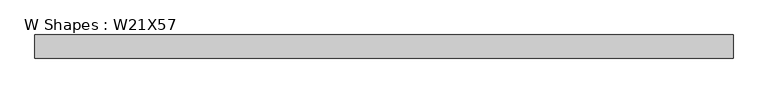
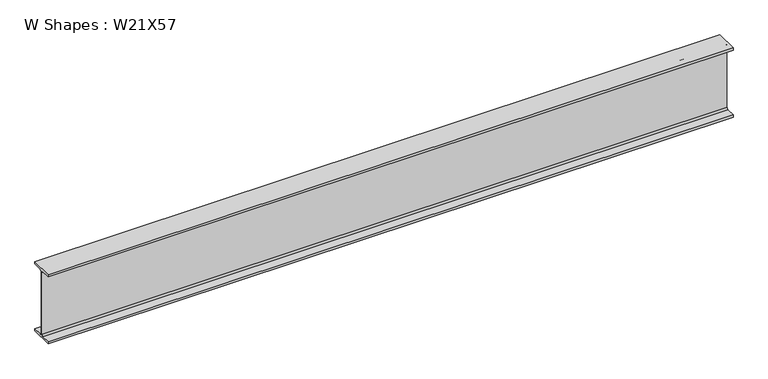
"""IFC4 building model written with IfcOpenShell, lengths in millimetres: beam geometry, W Shapes : W21X57."""

from ifc_helpers import new_model, si_unit, point, frame, frame_2d, origin, place, context, project, spatial, polyline, circle_curve, trimmed, segment, composite_curve, outline, extrude, source, transform, mapped, element, save


def w_shapes_w21x57_88b95638(model_context):
    return source(origin(), model_context, "Body", "SweptSolid", [
        extrude(outline(composite_curve([segment(polyline([(83.312, -251.46), (83.312, -267.97), (-83.312, -267.97), (-83.312, -251.46), (-17.907, -251.46)]), True, "CONTINUOUS"), segment(trimmed(circle_curve(frame_2d((-17.907, -238.76)), 12.7), [point((-17.907, -251.46))], [point((-5.207, -238.76))], True, "CARTESIAN"), True, "CONTINUOUS"), segment(polyline([(-5.207, -238.76), (-5.207, 238.76)]), True, "CONTINUOUS"), segment(trimmed(circle_curve(frame_2d((-17.907, 238.76)), 12.7), [point((-5.207, 238.76))], [point((-17.907, 251.46))], True, "CARTESIAN"), True, "CONTINUOUS"), segment(polyline([(-17.907, 251.46), (-83.312, 251.46), (-83.312, 267.97), (83.312, 267.97), (83.312, 251.46), (17.907, 251.46)]), True, "CONTINUOUS"), segment(trimmed(circle_curve(frame_2d((17.907, 238.76)), 12.7), [point((17.907, 251.46))], [point((5.207, 238.76))], True, "CARTESIAN"), True, "CONTINUOUS"), segment(polyline([(5.207, 238.76), (5.207, -238.76)]), True, "CONTINUOUS"), segment(trimmed(circle_curve(frame_2d((17.907, -238.76)), 12.7), [point((5.207, -238.76))], [point((17.907, -251.46))], True, "CARTESIAN"), True, "CONTINUOUS"), segment(polyline([(17.907, -251.46), (83.312, -251.46)]), True, "CONTINUOUS")], self_intersect=False)), frame((-2549.339694, 0.0, 0.0), z_axis=(1.0, 0.0, 0.0), x_axis=(0.0, 1.0, 0.0)), (0.0, 0.0, 1.0), 5023.8568363),
    ])


if __name__ == "__main__":
    model = new_model("IFC4")
    model_context = context("Model", 3, world=origin())
    ifc_project = project(units=[si_unit("LENGTHUNIT", "METRE", prefix="MILLI")], contexts=[model_context])
    site = spatial("IfcSite", under=ifc_project)
    building = spatial("IfcBuilding", under=site)
    placement = place(None, origin())
    w_shapes_w21x57_shape = w_shapes_w21x57_88b95638(model_context)
    element("IfcBeam", 1, ObjectType="W Shapes : W21X57", at=placement, inside=building, context=model_context, shape_type="MappedRepresentation", body=[
        mapped(w_shapes_w21x57_shape, transform((0.0, 0.0, 0.0), x_axis=(1.0, 0.0, 0.0), y_axis=(0.0, 1.0, 0.0), z_axis=(0.0, 0.0, 1.0))),
    ])
    save(model, "model.ifc")
